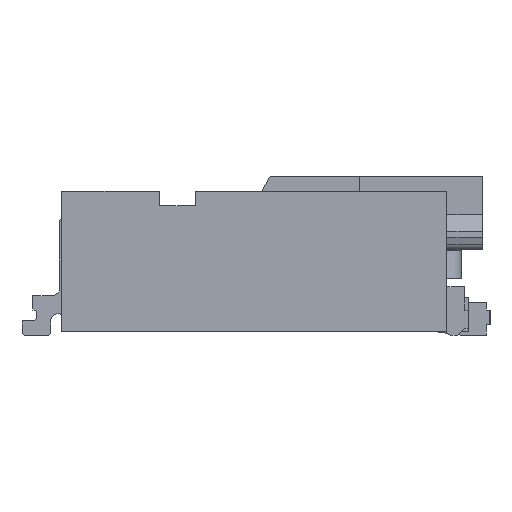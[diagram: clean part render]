
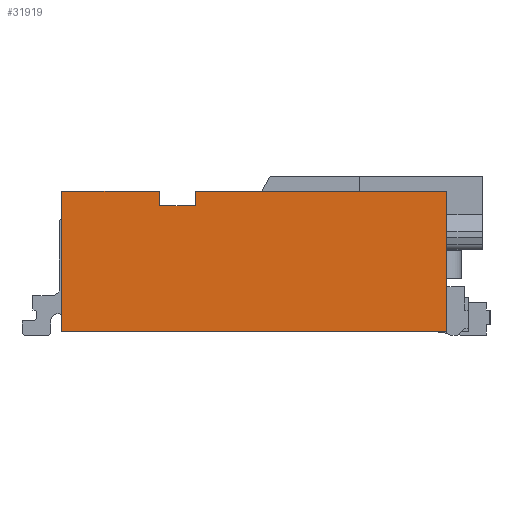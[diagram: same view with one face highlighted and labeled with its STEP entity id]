
A CAD part, front view. The second image highlights one B-rep face of the part: STEP entity #31919.
In plain terms, the highlighted planar face has unit normal (0, -1, 0).
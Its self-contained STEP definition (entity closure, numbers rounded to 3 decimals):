
#411 = CARTESIAN_POINT ( 'NONE',  ( -5.92, -2.2, 7.13 ) ) ;
#515 = DIRECTION ( 'NONE',  ( -1., 0., 0. ) ) ;
#593 = CARTESIAN_POINT ( 'NONE',  ( -5.24, -2.2, 7.13 ) ) ;
#3145 = CARTESIAN_POINT ( 'NONE',  ( -0.57, -2.2, 6.155 ) ) ;
#3563 = EDGE_CURVE ( 'NONE', #48141, #9822, #41932, .T. ) ;
#5310 = VECTOR ( 'NONE', #51910, 1000. ) ;
#6176 = EDGE_CURVE ( 'NONE', #29027, #25696, #43061, .T. ) ;
#6671 = LINE ( 'NONE', #3145, #5310 ) ;
#8004 = ORIENTED_EDGE ( 'NONE', *, *, #33651, .F. ) ;
#8258 = LINE ( 'NONE', #36982, #9282 ) ;
#8376 = PLANE ( 'NONE',  #12077 ) ;
#8544 = LINE ( 'NONE', #25079, #34598 ) ;
#9282 = VECTOR ( 'NONE', #16651, 1000. ) ;
#9288 = ORIENTED_EDGE ( 'NONE', *, *, #3563, .T. ) ;
#9822 = VERTEX_POINT ( 'NONE', #23752 ) ;
#11051 = VERTEX_POINT ( 'NONE', #22221 ) ;
#12077 = AXIS2_PLACEMENT_3D ( 'NONE', #24908, #28980, #515 ) ;
#13806 = CARTESIAN_POINT ( 'NONE',  ( -4.56, -2.2, 7.13 ) ) ;
#14455 = EDGE_CURVE ( 'NONE', #25696, #11051, #30861, .T. ) ;
#15289 = VECTOR ( 'NONE', #33524, 1000. ) ;
#16235 = EDGE_LOOP ( 'NONE', ( #9288, #43356, #25771, #22723, #50152, #26469, #46954, #8004 ) ) ;
#16651 = DIRECTION ( 'NONE',  ( -1., 0., 0. ) ) ;
#19480 = CARTESIAN_POINT ( 'NONE',  ( -4.56, -2.2, 7.13 ) ) ;
#20541 = VECTOR ( 'NONE', #23478, 1000. ) ;
#22221 = CARTESIAN_POINT ( 'NONE',  ( -4.06, -2.2, 6.93 ) ) ;
#22723 = ORIENTED_EDGE ( 'NONE', *, *, #6176, .F. ) ;
#22770 = CARTESIAN_POINT ( 'NONE',  ( -5.92, -2.2, 5.18 ) ) ;
#23478 = DIRECTION ( 'NONE',  ( 0., 0., 1. ) ) ;
#23752 = CARTESIAN_POINT ( 'NONE',  ( -4.06, -2.2, 7.13 ) ) ;
#24908 = CARTESIAN_POINT ( 'NONE',  ( -0.57, -2.2, 7.13 ) ) ;
#25079 = CARTESIAN_POINT ( 'NONE',  ( -4.06, -2.2, 6.155 ) ) ;
#25696 = VERTEX_POINT ( 'NONE', #48573 ) ;
#25771 = ORIENTED_EDGE ( 'NONE', *, *, #14455, .F. ) ;
#26469 = ORIENTED_EDGE ( 'NONE', *, *, #29402, .F. ) ;
#26593 = LINE ( 'NONE', #593, #38146 ) ;
#26992 = CARTESIAN_POINT ( 'NONE',  ( -5.92, -2.2, 7.13 ) ) ;
#28980 = DIRECTION ( 'NONE',  ( 0., 1., 0. ) ) ;
#29027 = VERTEX_POINT ( 'NONE', #19480 ) ;
#29402 = EDGE_CURVE ( 'NONE', #44269, #52236, #47307, .T. ) ;
#29513 = EDGE_CURVE ( 'NONE', #42885, #44269, #8258, .T. ) ;
#29787 = FACE_OUTER_BOUND ( 'NONE', #16235, .T. ) ;
#30325 = DIRECTION ( 'NONE',  ( 0., 0., -1. ) ) ;
#30861 = LINE ( 'NONE', #47663, #32078 ) ;
#31919 = ADVANCED_FACE ( 'NONE', ( #29787 ), #8376, .F. ) ;
#32078 = VECTOR ( 'NONE', #38739, 1000. ) ;
#33161 = EDGE_CURVE ( 'NONE', #52236, #29027, #26593, .T. ) ;
#33524 = DIRECTION ( 'NONE',  ( -1., 0., 0. ) ) ;
#33651 = EDGE_CURVE ( 'NONE', #48141, #42885, #6671, .T. ) ;
#34598 = VECTOR ( 'NONE', #37801, 1000. ) ;
#36792 = VECTOR ( 'NONE', #30325, 1000. ) ;
#36982 = CARTESIAN_POINT ( 'NONE',  ( -3.245, -2.2, 5.18 ) ) ;
#37801 = DIRECTION ( 'NONE',  ( 0., 0., 1. ) ) ;
#38146 = VECTOR ( 'NONE', #42312, 1000. ) ;
#38271 = CARTESIAN_POINT ( 'NONE',  ( -0.57, -2.2, 5.18 ) ) ;
#38739 = DIRECTION ( 'NONE',  ( 1., 0., 0. ) ) ;
#39822 = EDGE_CURVE ( 'NONE', #11051, #9822, #8544, .T. ) ;
#41130 = CARTESIAN_POINT ( 'NONE',  ( -2.315, -2.2, 7.13 ) ) ;
#41932 = LINE ( 'NONE', #41130, #15289 ) ;
#42312 = DIRECTION ( 'NONE',  ( 1., 0., 0. ) ) ;
#42885 = VERTEX_POINT ( 'NONE', #38271 ) ;
#43061 = LINE ( 'NONE', #13806, #36792 ) ;
#43356 = ORIENTED_EDGE ( 'NONE', *, *, #39822, .F. ) ;
#44269 = VERTEX_POINT ( 'NONE', #22770 ) ;
#46954 = ORIENTED_EDGE ( 'NONE', *, *, #29513, .F. ) ;
#47307 = LINE ( 'NONE', #26992, #20541 ) ;
#47663 = CARTESIAN_POINT ( 'NONE',  ( -3.245, -2.2, 6.93 ) ) ;
#48141 = VERTEX_POINT ( 'NONE', #48616 ) ;
#48573 = CARTESIAN_POINT ( 'NONE',  ( -4.56, -2.2, 6.93 ) ) ;
#48616 = CARTESIAN_POINT ( 'NONE',  ( -0.57, -2.2, 7.13 ) ) ;
#50152 = ORIENTED_EDGE ( 'NONE', *, *, #33161, .F. ) ;
#51910 = DIRECTION ( 'NONE',  ( 0., 0., -1. ) ) ;
#52236 = VERTEX_POINT ( 'NONE', #411 ) ;
